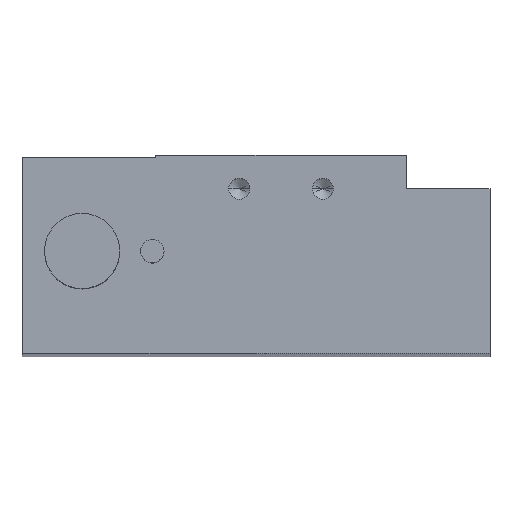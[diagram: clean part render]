
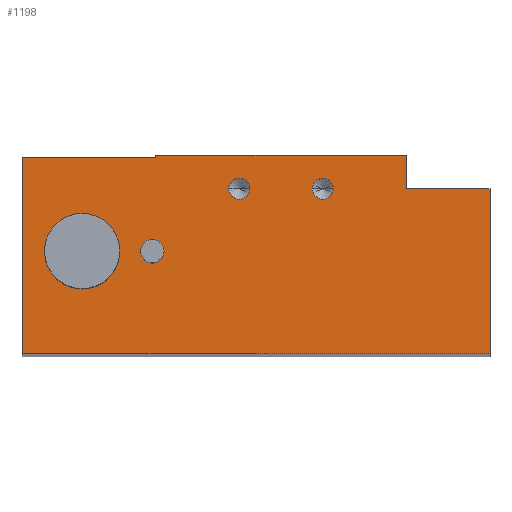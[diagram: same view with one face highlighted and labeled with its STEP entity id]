
A CAD part, top view. The second image highlights one B-rep face of the part: STEP entity #1198.
In plain terms, the highlighted planar face has unit normal (0, 0, 1).
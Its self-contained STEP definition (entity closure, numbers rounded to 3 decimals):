
#18 = DIRECTION ( 'NONE',  ( 0., 0., 1. ) ) ;
#22 = VERTEX_POINT ( 'NONE', #410 ) ;
#28 = DIRECTION ( 'NONE',  ( 0., -1., 0. ) ) ;
#34 = CARTESIAN_POINT ( 'NONE',  ( 122.647, 658.392, 0. ) ) ;
#38 = ORIENTED_EDGE ( 'NONE', *, *, #302, .F. ) ;
#39 = CARTESIAN_POINT ( 'NONE',  ( 123.897, 658.392, 0. ) ) ;
#54 = LINE ( 'NONE', #1583, #817 ) ;
#73 = ORIENTED_EDGE ( 'NONE', *, *, #885, .T. ) ;
#77 = VECTOR ( 'NONE', #1465, 1000. ) ;
#78 = VECTOR ( 'NONE', #1502, 1000. ) ;
#88 = CARTESIAN_POINT ( 'NONE',  ( 93.847, 650.892, 0. ) ) ;
#101 = EDGE_CURVE ( 'NONE', #915, #1232, #1180, .T. ) ;
#113 = FACE_BOUND ( 'NONE', #1386, .T. ) ;
#118 = DIRECTION ( 'NONE',  ( 1., 0., 0. ) ) ;
#141 = VERTEX_POINT ( 'NONE', #970 ) ;
#142 = ORIENTED_EDGE ( 'NONE', *, *, #1853, .T. ) ;
#161 = AXIS2_PLACEMENT_3D ( 'NONE', #1939, #1041, #118 ) ;
#185 = EDGE_LOOP ( 'NONE', ( #142, #1827, #587, #937, #1878, #1325, #1103, #73 ) ) ;
#190 = DIRECTION ( 'NONE',  ( 1., 0., 0. ) ) ;
#201 = CIRCLE ( 'NONE', #161, 1.4 ) ;
#206 = VERTEX_POINT ( 'NONE', #703 ) ;
#209 = AXIS2_PLACEMENT_3D ( 'NONE', #88, #1577, #664 ) ;
#231 = EDGE_CURVE ( 'NONE', #1157, #1903, #566, .T. ) ;
#237 = CARTESIAN_POINT ( 'NONE',  ( 103.647, 650.892, 0. ) ) ;
#274 = CARTESIAN_POINT ( 'NONE',  ( 86.647, 662.192, 0. ) ) ;
#276 = CARTESIAN_POINT ( 'NONE',  ( 86.647, 638.692, 0. ) ) ;
#280 = CARTESIAN_POINT ( 'NONE',  ( 112.647, 658.392, 0. ) ) ;
#301 = CARTESIAN_POINT ( 'NONE',  ( 121.397, 658.392, 0. ) ) ;
#302 = EDGE_CURVE ( 'NONE', #489, #1062, #1940, .T. ) ;
#311 = LINE ( 'NONE', #778, #1142 ) ;
#318 = AXIS2_PLACEMENT_3D ( 'NONE', #1764, #846, #1910 ) ;
#346 = CARTESIAN_POINT ( 'NONE',  ( 132.647, 662.392, 0. ) ) ;
#349 = DIRECTION ( 'NONE',  ( -1., 0., 0. ) ) ;
#352 = CARTESIAN_POINT ( 'NONE',  ( 102.647, 662.392, 0. ) ) ;
#400 = CARTESIAN_POINT ( 'NONE',  ( 142.647, 658.392, 0. ) ) ;
#410 = CARTESIAN_POINT ( 'NONE',  ( 86.647, 638.692, 0. ) ) ;
#416 = CARTESIAN_POINT ( 'NONE',  ( 142.647, 638.692, 0. ) ) ;
#419 = EDGE_CURVE ( 'NONE', #1404, #1403, #441, .T. ) ;
#422 = CARTESIAN_POINT ( 'NONE',  ( 132.647, 658.392, 0. ) ) ;
#423 = DIRECTION ( 'NONE',  ( 1., 0., 0. ) ) ;
#440 = DIRECTION ( 'NONE',  ( 1., 0., 0. ) ) ;
#441 = LINE ( 'NONE', #346, #1966 ) ;
#459 = AXIS2_PLACEMENT_3D ( 'NONE', #34, #1109, #190 ) ;
#462 = EDGE_LOOP ( 'NONE', ( #1772, #38 ) ) ;
#485 = LINE ( 'NONE', #276, #78 ) ;
#489 = VERTEX_POINT ( 'NONE', #992 ) ;
#509 = FACE_BOUND ( 'NONE', #768, .T. ) ;
#566 = CIRCLE ( 'NONE', #1790, 1.4 ) ;
#570 = CARTESIAN_POINT ( 'NONE',  ( 100.847, 650.892, 0. ) ) ;
#587 = ORIENTED_EDGE ( 'NONE', *, *, #419, .T. ) ;
#588 = DIRECTION ( 'NONE',  ( 0., -1., 0. ) ) ;
#664 = DIRECTION ( 'NONE',  ( 1., 0., 0. ) ) ;
#676 = CARTESIAN_POINT ( 'NONE',  ( 102.247, 650.892, 0. ) ) ;
#683 = EDGE_CURVE ( 'NONE', #1635, #1404, #54, .T. ) ;
#703 = CARTESIAN_POINT ( 'NONE',  ( 113.897, 658.392, 0. ) ) ;
#706 = VERTEX_POINT ( 'NONE', #1125 ) ;
#719 = CARTESIAN_POINT ( 'NONE',  ( 142.647, 638.692, 0. ) ) ;
#748 = EDGE_CURVE ( 'NONE', #1062, #489, #1835, .T. ) ;
#752 = LINE ( 'NONE', #352, #1515 ) ;
#759 = EDGE_CURVE ( 'NONE', #957, #141, #311, .T. ) ;
#768 = EDGE_LOOP ( 'NONE', ( #891, #1761 ) ) ;
#769 = AXIS2_PLACEMENT_3D ( 'NONE', #280, #1365, #440 ) ;
#778 = CARTESIAN_POINT ( 'NONE',  ( 102.647, 662.192, 0. ) ) ;
#795 = VECTOR ( 'NONE', #28, 1000. ) ;
#814 = CIRCLE ( 'NONE', #1037, 1.25 ) ;
#817 = VECTOR ( 'NONE', #349, 1000. ) ;
#821 = VECTOR ( 'NONE', #588, 1000. ) ;
#830 = DIRECTION ( 'NONE',  ( 1., 0., 0. ) ) ;
#846 = DIRECTION ( 'NONE',  ( 0., 0., 1. ) ) ;
#878 = PLANE ( 'NONE',  #925 ) ;
#885 = EDGE_CURVE ( 'NONE', #22, #1176, #485, .T. ) ;
#889 = ORIENTED_EDGE ( 'NONE', *, *, #1631, .F. ) ;
#891 = ORIENTED_EDGE ( 'NONE', *, *, #231, .F. ) ;
#904 = LINE ( 'NONE', #400, #77 ) ;
#915 = VERTEX_POINT ( 'NONE', #39 ) ;
#925 = AXIS2_PLACEMENT_3D ( 'NONE', #416, #1345, #423 ) ;
#926 = DIRECTION ( 'NONE',  ( 0., 0., 1. ) ) ;
#931 = LINE ( 'NONE', #274, #821 ) ;
#937 = ORIENTED_EDGE ( 'NONE', *, *, #955, .T. ) ;
#943 = CARTESIAN_POINT ( 'NONE',  ( 93.847, 650.892, 0. ) ) ;
#954 = CARTESIAN_POINT ( 'NONE',  ( 102.647, 662.392, 0. ) ) ;
#955 = EDGE_CURVE ( 'NONE', #1403, #1979, #752, .T. ) ;
#957 = VERTEX_POINT ( 'NONE', #1581 ) ;
#970 = CARTESIAN_POINT ( 'NONE',  ( 86.647, 662.192, 0. ) ) ;
#975 = FACE_BOUND ( 'NONE', #462, .T. ) ;
#992 = CARTESIAN_POINT ( 'NONE',  ( 98.347, 650.892, 0. ) ) ;
#1037 = AXIS2_PLACEMENT_3D ( 'NONE', #1824, #926, #1982 ) ;
#1041 = DIRECTION ( 'NONE',  ( 0., 0., 1. ) ) ;
#1062 = VERTEX_POINT ( 'NONE', #1899 ) ;
#1096 = DIRECTION ( 'NONE',  ( 1., 0., 0. ) ) ;
#1098 = EDGE_LOOP ( 'NONE', ( #1561, #889 ) ) ;
#1103 = ORIENTED_EDGE ( 'NONE', *, *, #1450, .T. ) ;
#1109 = DIRECTION ( 'NONE',  ( 0., 0., 1. ) ) ;
#1125 = CARTESIAN_POINT ( 'NONE',  ( 111.397, 658.392, 0. ) ) ;
#1142 = VECTOR ( 'NONE', #1700, 1000. ) ;
#1154 = ORIENTED_EDGE ( 'NONE', *, *, #101, .F. ) ;
#1157 = VERTEX_POINT ( 'NONE', #570 ) ;
#1176 = VERTEX_POINT ( 'NONE', #719 ) ;
#1180 = CIRCLE ( 'NONE', #459, 1.25 ) ;
#1198 = ADVANCED_FACE ( 'NONE', ( #509, #975, #1339, #113, #1688 ), #878, .T. ) ;
#1210 = EDGE_CURVE ( 'NONE', #1232, #915, #814, .T. ) ;
#1232 = VERTEX_POINT ( 'NONE', #301 ) ;
#1239 = CIRCLE ( 'NONE', #769, 1.25 ) ;
#1325 = ORIENTED_EDGE ( 'NONE', *, *, #759, .T. ) ;
#1339 = FACE_BOUND ( 'NONE', #1098, .T. ) ;
#1344 = CARTESIAN_POINT ( 'NONE',  ( 132.647, 662.392, 0. ) ) ;
#1345 = DIRECTION ( 'NONE',  ( 0., 0., 1. ) ) ;
#1349 = EDGE_CURVE ( 'NONE', #1979, #957, #1800, .T. ) ;
#1365 = DIRECTION ( 'NONE',  ( 0., 0., 1. ) ) ;
#1379 = EDGE_CURVE ( 'NONE', #1903, #1157, #201, .T. ) ;
#1386 = EDGE_LOOP ( 'NONE', ( #1154, #1814 ) ) ;
#1403 = VERTEX_POINT ( 'NONE', #1344 ) ;
#1404 = VERTEX_POINT ( 'NONE', #422 ) ;
#1417 = DIRECTION ( 'NONE',  ( 0., 1., 0. ) ) ;
#1447 = CIRCLE ( 'NONE', #318, 1.25 ) ;
#1450 = EDGE_CURVE ( 'NONE', #141, #22, #931, .T. ) ;
#1465 = DIRECTION ( 'NONE',  ( 0., 1., 0. ) ) ;
#1467 = EDGE_CURVE ( 'NONE', #206, #706, #1239, .T. ) ;
#1485 = CARTESIAN_POINT ( 'NONE',  ( 102.647, 662.392, 0. ) ) ;
#1502 = DIRECTION ( 'NONE',  ( 1., 0., 0. ) ) ;
#1515 = VECTOR ( 'NONE', #1864, 1000. ) ;
#1561 = ORIENTED_EDGE ( 'NONE', *, *, #1467, .F. ) ;
#1577 = DIRECTION ( 'NONE',  ( 0., 0., 1. ) ) ;
#1581 = CARTESIAN_POINT ( 'NONE',  ( 102.647, 662.192, 0. ) ) ;
#1583 = CARTESIAN_POINT ( 'NONE',  ( 132.647, 658.392, 0. ) ) ;
#1615 = CARTESIAN_POINT ( 'NONE',  ( 142.647, 658.392, 0. ) ) ;
#1631 = EDGE_CURVE ( 'NONE', #706, #206, #1447, .T. ) ;
#1635 = VERTEX_POINT ( 'NONE', #1615 ) ;
#1688 = FACE_OUTER_BOUND ( 'NONE', #185, .T. ) ;
#1700 = DIRECTION ( 'NONE',  ( -1., 0., 0. ) ) ;
#1709 = AXIS2_PLACEMENT_3D ( 'NONE', #943, #18, #1096 ) ;
#1752 = DIRECTION ( 'NONE',  ( 0., 0., 1. ) ) ;
#1761 = ORIENTED_EDGE ( 'NONE', *, *, #1379, .F. ) ;
#1764 = CARTESIAN_POINT ( 'NONE',  ( 112.647, 658.392, 0. ) ) ;
#1772 = ORIENTED_EDGE ( 'NONE', *, *, #748, .F. ) ;
#1790 = AXIS2_PLACEMENT_3D ( 'NONE', #676, #1752, #830 ) ;
#1800 = LINE ( 'NONE', #954, #795 ) ;
#1814 = ORIENTED_EDGE ( 'NONE', *, *, #1210, .F. ) ;
#1824 = CARTESIAN_POINT ( 'NONE',  ( 122.647, 658.392, 0. ) ) ;
#1827 = ORIENTED_EDGE ( 'NONE', *, *, #683, .T. ) ;
#1835 = CIRCLE ( 'NONE', #1709, 4.5 ) ;
#1853 = EDGE_CURVE ( 'NONE', #1176, #1635, #904, .T. ) ;
#1864 = DIRECTION ( 'NONE',  ( -1., 0., 0. ) ) ;
#1878 = ORIENTED_EDGE ( 'NONE', *, *, #1349, .T. ) ;
#1899 = CARTESIAN_POINT ( 'NONE',  ( 89.347, 650.892, 0. ) ) ;
#1903 = VERTEX_POINT ( 'NONE', #237 ) ;
#1910 = DIRECTION ( 'NONE',  ( 1., 0., 0. ) ) ;
#1939 = CARTESIAN_POINT ( 'NONE',  ( 102.247, 650.892, 0. ) ) ;
#1940 = CIRCLE ( 'NONE', #209, 4.5 ) ;
#1966 = VECTOR ( 'NONE', #1417, 1000. ) ;
#1979 = VERTEX_POINT ( 'NONE', #1485 ) ;
#1982 = DIRECTION ( 'NONE',  ( 1., 0., 0. ) ) ;
